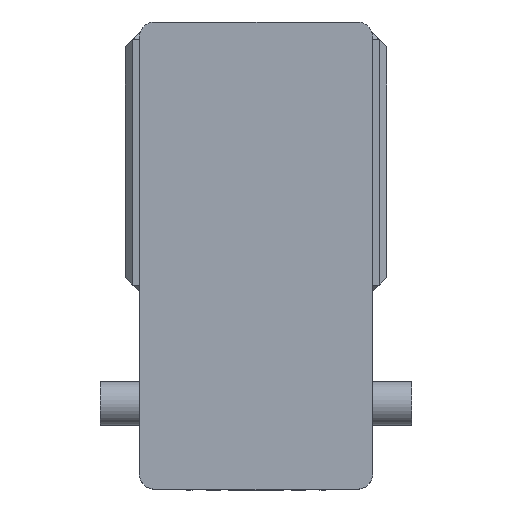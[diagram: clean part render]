
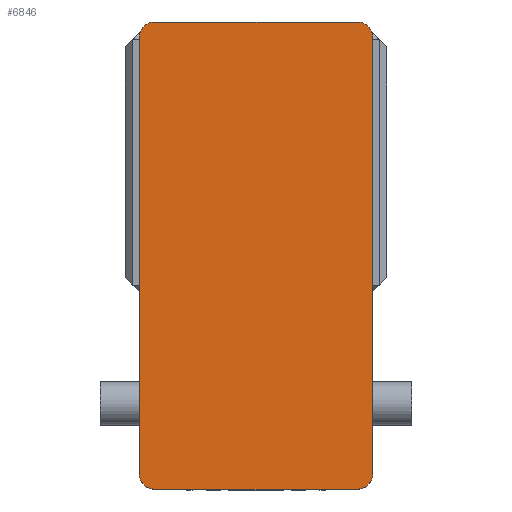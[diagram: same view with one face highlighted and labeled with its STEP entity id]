
A CAD part, left-side view. The second image highlights one B-rep face of the part: STEP entity #6846.
In plain terms, the highlighted planar face has unit normal (-1, 0, 0) as drawn and (0, 0, 1) by its records, which use the part's own axes.
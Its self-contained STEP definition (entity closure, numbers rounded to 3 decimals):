
#242 = FACE_OUTER_BOUND ( 'NONE', #7386, .T. ) ;
#787 = CARTESIAN_POINT ( 'NONE',  ( 75., 140., 105. ) ) ;
#1276 = CARTESIAN_POINT ( 'NONE',  ( -75., 140., 105. ) ) ;
#1480 = VECTOR ( 'NONE', #7035, 1000. ) ;
#2069 = AXIS2_PLACEMENT_3D ( 'NONE', #5707, #5686, #5661 ) ;
#2140 = AXIS2_PLACEMENT_3D ( 'NONE', #6111, #6102, #6100 ) ;
#2211 = AXIS2_PLACEMENT_3D ( 'NONE', #6483, #6482, #6473 ) ;
#2231 = AXIS2_PLACEMENT_3D ( 'NONE', #6739, #6696, #6673 ) ;
#2262 = CARTESIAN_POINT ( 'NONE',  ( 65., -150., 105. ) ) ;
#2333 = ORIENTED_EDGE ( 'NONE', *, *, #4805, .T. ) ;
#2344 = VERTEX_POINT ( 'NONE', #5619 ) ;
#2476 = VERTEX_POINT ( 'NONE', #4712 ) ;
#2657 = DIRECTION ( 'NONE',  ( 1., 0., 0. ) ) ;
#2665 = DIRECTION ( 'NONE',  ( 0., 0., 1. ) ) ;
#2711 = CARTESIAN_POINT ( 'NONE',  ( 0., 0., 105. ) ) ;
#2803 = PLANE ( 'NONE',  #9871 ) ;
#3996 = VERTEX_POINT ( 'NONE', #8645 ) ;
#4610 = EDGE_CURVE ( 'NONE', #2476, #8505, #5943, .T. ) ;
#4611 = VERTEX_POINT ( 'NONE', #8835 ) ;
#4690 = EDGE_CURVE ( 'NONE', #3996, #4611, #5695, .T. ) ;
#4712 = CARTESIAN_POINT ( 'NONE',  ( 75., -140., 105. ) ) ;
#4747 = EDGE_CURVE ( 'NONE', #8945, #9839, #5434, .T. ) ;
#4805 = EDGE_CURVE ( 'NONE', #2344, #6898, #5352, .T. ) ;
#4829 = EDGE_CURVE ( 'NONE', #6898, #2476, #5308, .T. ) ;
#4846 = EDGE_CURVE ( 'NONE', #8505, #3996, #5205, .T. ) ;
#4884 = EDGE_CURVE ( 'NONE', #4611, #8945, #5161, .T. ) ;
#4908 = EDGE_CURVE ( 'NONE', #9839, #2344, #5059, .T. ) ;
#5059 = CIRCLE ( 'NONE', #2069, 10. ) ;
#5161 = CIRCLE ( 'NONE', #2140, 10. ) ;
#5205 = CIRCLE ( 'NONE', #2211, 10. ) ;
#5308 = CIRCLE ( 'NONE', #2231, 10. ) ;
#5352 = LINE ( 'NONE', #7073, #1480 ) ;
#5429 = VECTOR ( 'NONE', #7730, 1000. ) ;
#5434 = LINE ( 'NONE', #7845, #5429 ) ;
#5619 = CARTESIAN_POINT ( 'NONE',  ( -65., -150., 105. ) ) ;
#5636 = VECTOR ( 'NONE', #8343, 1000. ) ;
#5661 = DIRECTION ( 'NONE',  ( 1., 0., 0. ) ) ;
#5686 = DIRECTION ( 'NONE',  ( 0., 0., 1. ) ) ;
#5695 = LINE ( 'NONE', #8285, #5636 ) ;
#5707 = CARTESIAN_POINT ( 'NONE',  ( -65., -140., 105. ) ) ;
#5793 = ORIENTED_EDGE ( 'NONE', *, *, #4884, .T. ) ;
#5882 = VECTOR ( 'NONE', #8982, 1000. ) ;
#5915 = ORIENTED_EDGE ( 'NONE', *, *, #4747, .T. ) ;
#5943 = LINE ( 'NONE', #8925, #5882 ) ;
#6100 = DIRECTION ( 'NONE',  ( 1., 0., 0. ) ) ;
#6102 = DIRECTION ( 'NONE',  ( 0., 0., 1. ) ) ;
#6111 = CARTESIAN_POINT ( 'NONE',  ( -65., 140., 105. ) ) ;
#6473 = DIRECTION ( 'NONE',  ( 1., 0., 0. ) ) ;
#6482 = DIRECTION ( 'NONE',  ( 0., 0., 1. ) ) ;
#6483 = CARTESIAN_POINT ( 'NONE',  ( 65., 140., 105. ) ) ;
#6673 = DIRECTION ( 'NONE',  ( 1., 0., 0. ) ) ;
#6696 = DIRECTION ( 'NONE',  ( 0., 0., 1. ) ) ;
#6739 = CARTESIAN_POINT ( 'NONE',  ( 65., -140., 105. ) ) ;
#6846 = ADVANCED_FACE ( 'NONE', ( #242 ), #2803, .T. ) ;
#6869 = ORIENTED_EDGE ( 'NONE', *, *, #4908, .T. ) ;
#6898 = VERTEX_POINT ( 'NONE', #2262 ) ;
#7035 = DIRECTION ( 'NONE',  ( 1., 0., 0. ) ) ;
#7073 = CARTESIAN_POINT ( 'NONE',  ( -75., -150., 105. ) ) ;
#7386 = EDGE_LOOP ( 'NONE', ( #2333, #8934, #7907, #7680, #7795, #5793, #5915, #6869 ) ) ;
#7680 = ORIENTED_EDGE ( 'NONE', *, *, #4846, .T. ) ;
#7730 = DIRECTION ( 'NONE',  ( 0., -1., 0. ) ) ;
#7795 = ORIENTED_EDGE ( 'NONE', *, *, #4690, .T. ) ;
#7845 = CARTESIAN_POINT ( 'NONE',  ( -75., 150., 105. ) ) ;
#7907 = ORIENTED_EDGE ( 'NONE', *, *, #4610, .T. ) ;
#8285 = CARTESIAN_POINT ( 'NONE',  ( -75., 150., 105. ) ) ;
#8343 = DIRECTION ( 'NONE',  ( -1., 0., 0. ) ) ;
#8505 = VERTEX_POINT ( 'NONE', #787 ) ;
#8645 = CARTESIAN_POINT ( 'NONE',  ( 65., 150., 105. ) ) ;
#8835 = CARTESIAN_POINT ( 'NONE',  ( -65., 150., 105. ) ) ;
#8925 = CARTESIAN_POINT ( 'NONE',  ( 75., 150., 105. ) ) ;
#8934 = ORIENTED_EDGE ( 'NONE', *, *, #4829, .T. ) ;
#8945 = VERTEX_POINT ( 'NONE', #1276 ) ;
#8982 = DIRECTION ( 'NONE',  ( 0., 1., 0. ) ) ;
#9751 = CARTESIAN_POINT ( 'NONE',  ( -75., -140., 105. ) ) ;
#9839 = VERTEX_POINT ( 'NONE', #9751 ) ;
#9871 = AXIS2_PLACEMENT_3D ( 'NONE', #2711, #2665, #2657 ) ;
